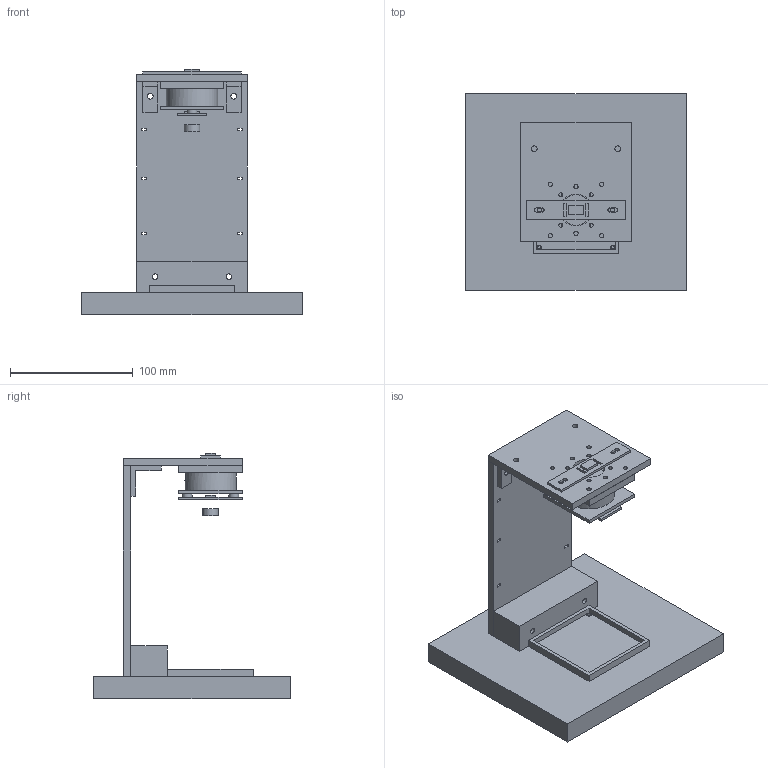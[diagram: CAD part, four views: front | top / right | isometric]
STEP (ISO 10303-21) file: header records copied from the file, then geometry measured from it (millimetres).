
FILE_DESCRIPTION(('Open CASCADE Model'),'2;1');
FILE_NAME('Open CASCADE Shape Model','2026-11-10T18:04:08',('Author'),( 'Open CASCADE'),'Open CASCADE STEP processor 7.9','Open CASCADE 7.9' ,'Unknown');
FILE_SCHEMA(('AUTOMOTIVE_DESIGN { 1 0 10303 214 1 1 1 1 }'));
Length unit declared in the file: millimetre
Products named in the file (17): testbox1_box_maglev; 01_plywood_base; 02_wood_rear_clamp; 03_clear_rear_panel; 04_clear_top_cantilever; 05_angle_bracket_left; 05_angle_bracket_right; 06_em_cradle; 07_helper_retainer_cassette; 08_lower_Hall_guard; 09_upper_Hall_carrier; 10_catch_tray; REF_electromagnet_25x20; REF_helper_19p05x1p5875; REF_payload_ASSUMED_12p7x6_gap15; REF_lower_Hall_allowance; REF_upper_Hall_allowance
Assembly tree (16 placements, depth 2):
  testbox1_box_maglev
    01_plywood_base
    02_wood_rear_clamp
    03_clear_rear_panel
    04_clear_top_cantilever
    05_angle_bracket_left
    05_angle_bracket_right
    06_em_cradle
    07_helper_retainer_cassette
    08_lower_Hall_guard
    09_upper_Hall_carrier
    10_catch_tray
    REF_electromagnet_25x20
    REF_helper_19p05x1p5875
    REF_payload_ASSUMED_12p7x6_gap15
    REF_lower_Hall_allowance
    REF_upper_Hall_allowance
Bounding box: 180 x 160 x 200 mm (x, y, z)
Volume: 786758.1 mm3; surface area: 180411.2 mm2
Topology: 16 solids, 16 shells, 234 faces, 574 edges, 382 vertices
Faces by surface type: plane 162, cylinder 70, cone 2
Full cylindrical faces by diameter (mm): 2.5 x6, 3.4 x33, 4.5 x14, 8 x2, 12.7 x1, 19.05 x1, 19.6 x1, 25 x1, 25.6 x1, 26 x1, 42 x1
Entity records: 14829 total; most frequent: CARTESIAN_POINT 2695, DIRECTION 2110, LINE 1188, VECTOR 1188, ORIENTED_EDGE 1148, PCURVE 1148, DEFINITIONAL_REPRESENTATION 1148, EDGE_CURVE 574
